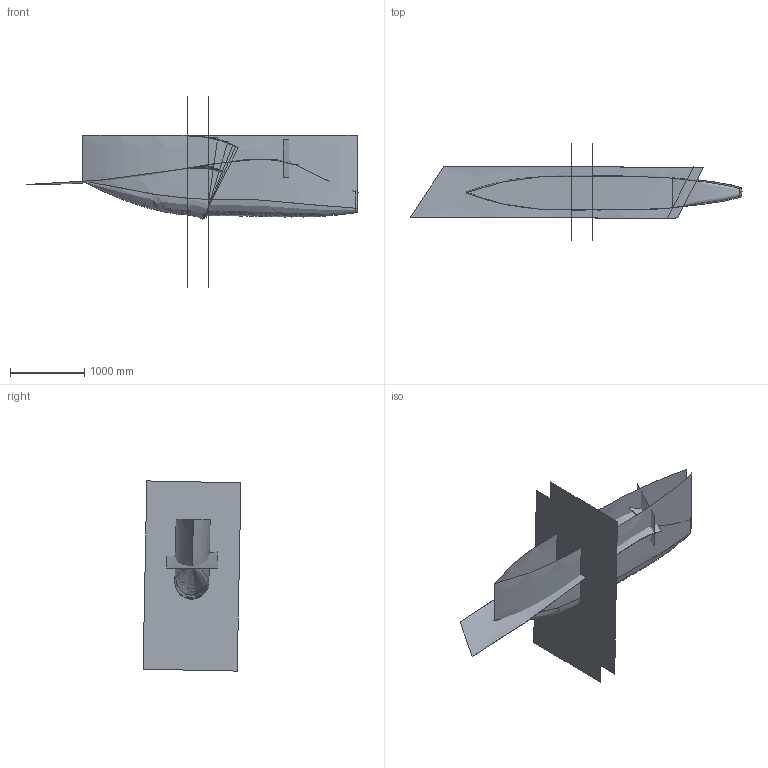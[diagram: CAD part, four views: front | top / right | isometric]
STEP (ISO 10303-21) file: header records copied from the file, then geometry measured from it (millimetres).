
FILE_DESCRIPTION((''),'2;1');
FILE_NAME('','2022-11-28T01:08:31',(''),(''),'','CADfix','');
FILE_SCHEMA(('AUTOMOTIVE_DESIGN { 1 0 10303 214 1 1 1 1 }'));
Bounding box: 4477.64 x 1320.24 x 2564.74 mm (x, y, z)
Surface area: 27135073 mm2 (no closed solid volume)
Topology: 0 solids, 0 shells, 21 faces, 85 edges, 86 vertices
Faces by surface type: bspline 21
Entity records: 79892 total; most frequent: CARTESIAN_POINT 79848, B_SPLINE_SURFACE_WITH_KNOTS 21, DIMENSIONAL_EXPONENTS 2, DIRECTION 1, VECTOR 1, LINE 1, TRIMMED_CURVE 1, PLANE_ANGLE_MEASURE_WITH_UNIT 1
